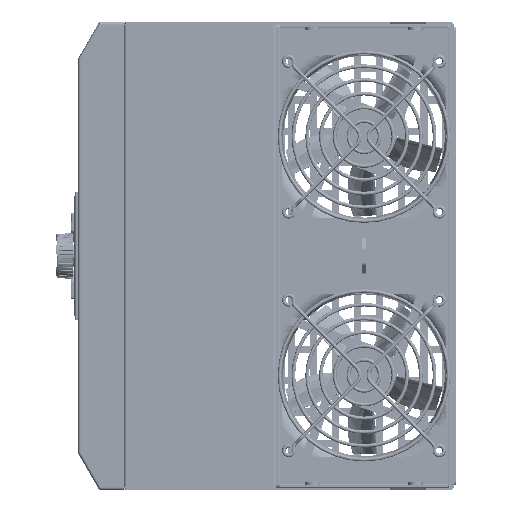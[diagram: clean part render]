
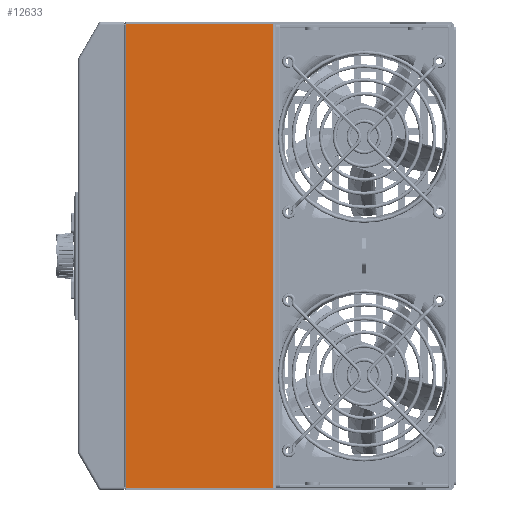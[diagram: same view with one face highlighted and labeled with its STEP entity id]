
A CAD part, front view. The second image highlights one B-rep face of the part: STEP entity #12633.
In plain terms, the highlighted planar face has unit normal (0, -1, 0).
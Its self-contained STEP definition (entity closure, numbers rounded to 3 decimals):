
#12633=ADVANCED_FACE('',(#86649),#86651,.T.);
#86649=FACE_BOUND('',#86650,.T.);
#86650=EDGE_LOOP('',(#174172,#174173,#174174,#174175,#174176,#174177));
#86651=PLANE('',#86652);
#86652=AXIS2_PLACEMENT_3D('',#86653,#86654,#86655);
#86653=CARTESIAN_POINT('',(84.8,-152.,127.5));
#86654=DIRECTION('',(0.,-1.,0.));
#86655=DIRECTION('',(0.,0.,1.));
#174172=ORIENTED_EDGE('',*,*,#215344,.F.);
#174173=ORIENTED_EDGE('',*,*,#215345,.T.);
#174174=ORIENTED_EDGE('',*,*,#215346,.T.);
#174175=ORIENTED_EDGE('',*,*,#215330,.T.);
#174176=ORIENTED_EDGE('',*,*,#215343,.T.);
#174177=ORIENTED_EDGE('',*,*,#215341,.F.);
#215330=EDGE_CURVE('',#238564,#238561,#238565,.T.);
#215341=EDGE_CURVE('',#238580,#238582,#238583,.T.);
#215343=EDGE_CURVE('',#238561,#238582,#238585,.T.);
#215344=EDGE_CURVE('',#238586,#238580,#238587,.T.);
#215345=EDGE_CURVE('',#238586,#238588,#238589,.T.);
#215346=EDGE_CURVE('',#238588,#238564,#238590,.T.);
#238561=VERTEX_POINT('',#279956);
#238564=VERTEX_POINT('',#279964);
#238565=LINE('',#279965,#279966);
#238580=VERTEX_POINT('',#280002);
#238582=VERTEX_POINT('',#280006);
#238583=LINE('',#280007,#280008);
#238585=LINE('',#280013,#280014);
#238586=VERTEX_POINT('',#280016);
#238587=LINE('',#280017,#280018);
#238588=VERTEX_POINT('',#280020);
#238589=LINE('',#280021,#280022);
#238590=LINE('',#280024,#280025);
#279956=CARTESIAN_POINT('',(-13.7,-152.,126.3));
#279964=CARTESIAN_POINT('',(-13.7,-152.,-126.3));
#279965=CARTESIAN_POINT('',(-13.7,-152.,-126.3));
#279966=VECTOR('',#279967,1.);
#279967=DIRECTION('',(0.,0.,1.));
#280002=CARTESIAN_POINT('',(-93.7,-152.,126.1));
#280006=CARTESIAN_POINT('',(-93.5,-152.,126.3));
#280007=CARTESIAN_POINT('',(-93.7,-152.,126.1));
#280008=VECTOR('',#280009,1.);
#280009=DIRECTION('',(0.707,0.,0.707));
#280013=CARTESIAN_POINT('',(-13.7,-152.,126.3));
#280014=VECTOR('',#280015,1.);
#280015=DIRECTION('',(-1.,0.,0.));
#280016=CARTESIAN_POINT('',(-93.7,-152.,-126.1));
#280017=CARTESIAN_POINT('',(-93.7,-152.,-126.1));
#280018=VECTOR('',#280019,1.);
#280019=DIRECTION('',(0.,0.,1.));
#280020=CARTESIAN_POINT('',(-93.5,-152.,-126.3));
#280021=CARTESIAN_POINT('',(-93.7,-152.,-126.1));
#280022=VECTOR('',#280023,1.);
#280023=DIRECTION('',(0.707,0.,-0.707));
#280024=CARTESIAN_POINT('',(-93.5,-152.,-126.3));
#280025=VECTOR('',#280026,1.);
#280026=DIRECTION('',(1.,0.,0.));
